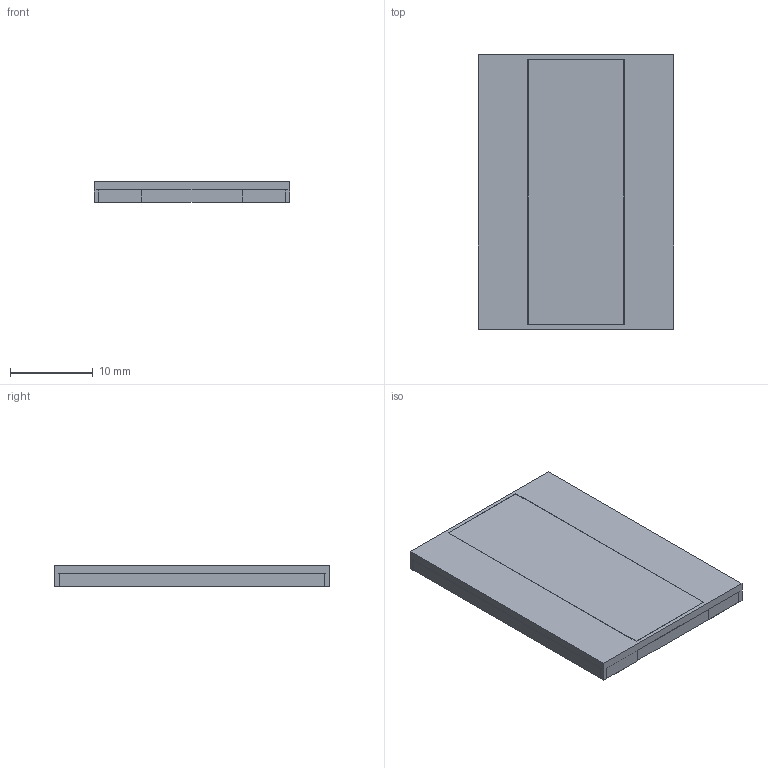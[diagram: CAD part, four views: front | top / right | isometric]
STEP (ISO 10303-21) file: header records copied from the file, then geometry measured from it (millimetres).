
FILE_DESCRIPTION(('Open CASCADE Model'),'2;1');
FILE_NAME('Open CASCADE Shape Model','2026-05-31T19:43:34',('Author'),( 'Open CASCADE'),'Open CASCADE STEP processor 7.6','Open CASCADE 7.6' ,'Unknown');
FILE_SCHEMA(('AP242_MANAGED_MODEL_BASED_3D_ENGINEERING_MIM_LF. {1 0 10303 442 1 1 4 }'));
Length unit declared in the file: millimetre
Products named in the file (2): Socket; Part
Bounding box: 23.6 x 33.1 x 2.5 mm (x, y, z)
Volume: 1937.1 mm3; surface area: 2891.6 mm2
Topology: 2 solids, 2 shells, 37 faces, 96 edges, 64 vertices
Faces by surface type: plane 33, cylinder 4
Entity records: 2380 total; most frequent: CARTESIAN_POINT 398, DIRECTION 364, LINE 264, VECTOR 264, ORIENTED_EDGE 192, PCURVE 192, DEFINITIONAL_REPRESENTATION 192, EDGE_CURVE 96
